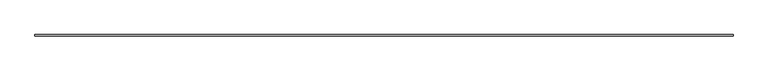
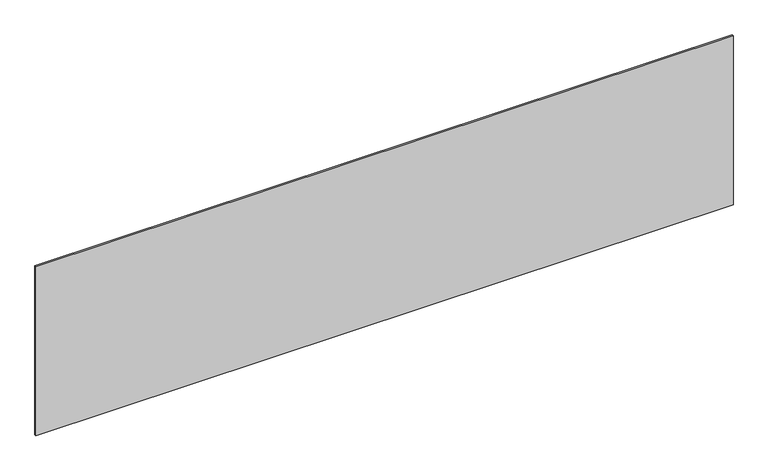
"""IFC4 building model written with IfcOpenShell, lengths in millimetres: plate geometry, システム パネル : 標準."""

from ifc_helpers import new_model, si_unit, origin, origin_with_axes, place, context, project, spatial, polyline, outline, extrude, source, transform, mapped, element, save


def plate_471477f6(model_context):
    return source(origin(), model_context, "Body", "SweptSolid", [
        extrude(outline(polyline([(2281.6666667, -5.0), (-2281.6666667, -5.0), (-2281.6666667, 5.0), (2281.6666667, 5.0), (2281.6666667, -5.0)])), origin_with_axes(), (0.0, 0.0, 1.0), 1169.439502),
    ])


if __name__ == "__main__":
    model = new_model("IFC4")
    model_context = context("Model", 3, world=origin())
    ifc_project = project(units=[si_unit("LENGTHUNIT", "METRE", prefix="MILLI")], contexts=[model_context])
    site = spatial("IfcSite", under=ifc_project)
    building = spatial("IfcBuilding", under=site)
    placement = place(None, origin())
    plate_shape = plate_471477f6(model_context)
    element("IfcPlate", 1, ObjectType="システム パネル : 標準", at=placement, inside=building, context=model_context, shape_type="MappedRepresentation", body=[
        mapped(plate_shape, transform((0.0, 0.0, 0.0), x_axis=(1.0, 0.0, 0.0), y_axis=(0.0, 1.0, 0.0), z_axis=(0.0, 0.0, 1.0))),
    ])
    save(model, "model.ifc")
